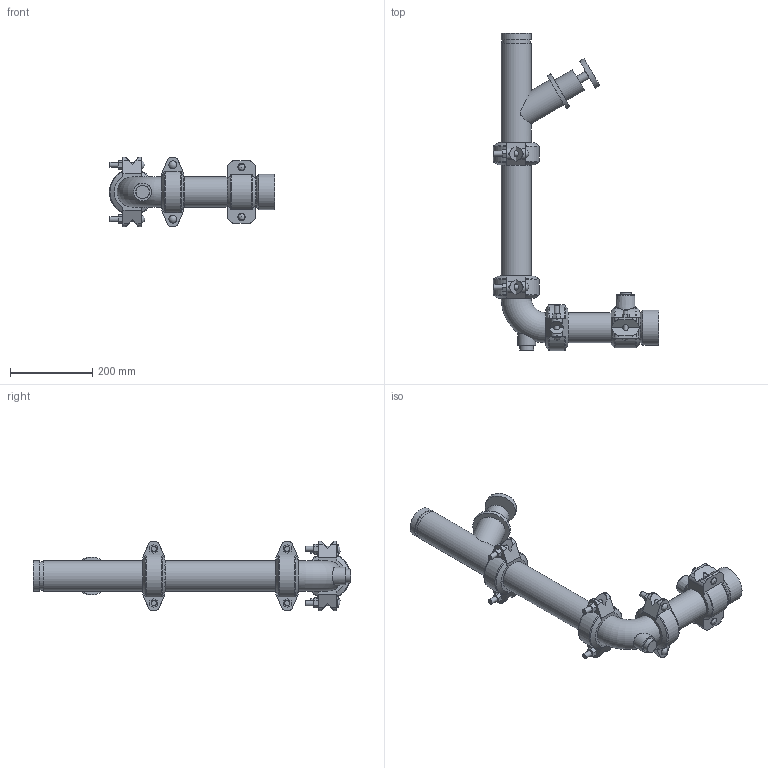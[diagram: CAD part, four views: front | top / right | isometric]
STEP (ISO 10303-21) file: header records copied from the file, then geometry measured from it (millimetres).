
FILE_DESCRIPTION(/* description */ ('VIC RVI SINGLE COIL AHU DROP LOW PROFILE SERIES 385I (OGSxFPT)','CAx-IF Rec.Pracs.---Representation and Presentation of Product Manufacturing Information (PMI)---4.0---2014-10-13'),/* implementation_level */ '2;1');
FILE_NAME(/* name */ 'C:\Users\kkamble\AppData\Roaming\Autodesk\ApplicationPlugins\Victaulic.Temp\A812\Victaulic_IPS_RVI_Single Coil_Low Profile_Series 385I (OGSxFPT)_02.5x02.5 (65x65).stp',/* time_stamp */ '2021-03-17T13:02:09+06:00',/* author */ ('Vjadhav'),/* organization */ ('Victaulic'),/* preprocessor_version */ 'ST-DEVELOPER v17.2',/* originating_system */ 'Autodesk Inventor 2019',/* authorisation */ '');
FILE_SCHEMA (('AP242_MANAGED_MODEL_BASED_3D_ENGINEERING_MIM_LF { 1 0 10303 442 1 1 4 }'));
Length unit declared in the file: inch
Products named in the file (8): 385I-02.5x02.5; 080-02.5; 072-02.5x0.75; Pipe_1-02.5; 10-DR_1-02.5; Pipe_2_(9 3/16")-02.5; 177N-02.5; 789-02.5
Assembly tree (9 placements, depth 2):
  385I-02.5x02.5
    080-02.5
    072-02.5x0.75
    Pipe_1-02.5
    177N-02.5  x3
    10-DR_1-02.5
    Pipe_2_(9 3/16")-02.5
    789-02.5
Bounding box: 401.83 x 770.13 x 168.94 mm (x, y, z)
Volume: 3314467.2 mm3; surface area: 749768.8 mm2
Topology: 9 solids, 9 shells, 448 faces, 1214 edges, 818 vertices
Faces by surface type: plane 254, cylinder 143, torus 23, cone 18, sphere 6, bspline 4
Full cylindrical faces by diameter (mm): 10.16 x4, 12.7 x6, 14.605 x2, 17.78 x2, 19.05 x7, 20.93 x1, 26.67 x1, 26.987 x1, 33.401 x1, 43.18 x1, 57.15 x1, 58.42 x2, 60.325 x3, 62.713 x4, 69.088 x9, 69.85 x1, 73.025 x21, 76.2 x1, 85.725 x1, 92.05 x1
Entity records: 9852 total; most frequent: CARTESIAN_POINT 2116, DIRECTION 1591, ORIENTED_EDGE 1450, EDGE_CURVE 725, AXIS2_PLACEMENT_3D 632, VERTEX_POINT 496, EDGE_LOOP 329, LINE 327
